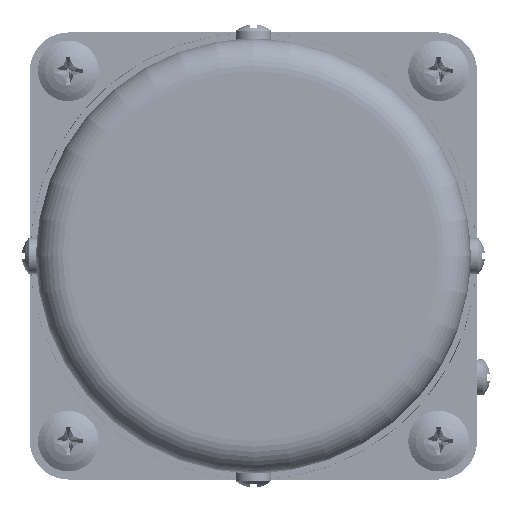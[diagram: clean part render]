
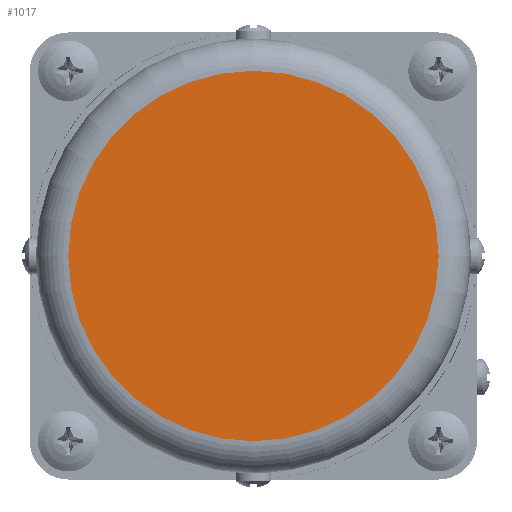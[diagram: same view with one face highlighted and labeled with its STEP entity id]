
A CAD part, left-side view. The second image highlights one B-rep face of the part: STEP entity #1017.
In plain terms, the highlighted planar face has unit normal (-1, 0, 0).
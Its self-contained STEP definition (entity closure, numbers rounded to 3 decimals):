
#485=PLANE('',#6438);
#1017=ADVANCED_FACE('',(#1380),#485,.F.);
#1380=FACE_OUTER_BOUND('',#1781,.T.);
#1781=EDGE_LOOP('',(#3244));
#3244=ORIENTED_EDGE('',*,*,#4904,.T.);
#4189=VERTEX_POINT('',#70237);
#4904=EDGE_CURVE('',#4189,#4189,#5930,.T.);
#5930=CIRCLE('',#6437,29.);
#6437=AXIS2_PLACEMENT_3D('',#70236,#7375,#7376);
#6438=AXIS2_PLACEMENT_3D('',#70238,#7377,#7378);
#7375=DIRECTION('',(-1.,0.,0.));
#7376=DIRECTION('',(0.,0.,1.));
#7377=DIRECTION('',(1.,0.,0.));
#7378=DIRECTION('',(0.,0.,1.));
#70236=CARTESIAN_POINT('',(-134.,0.,0.));
#70237=CARTESIAN_POINT('',(-134.,0.,29.));
#70238=CARTESIAN_POINT('',(-134.,0.,0.));
